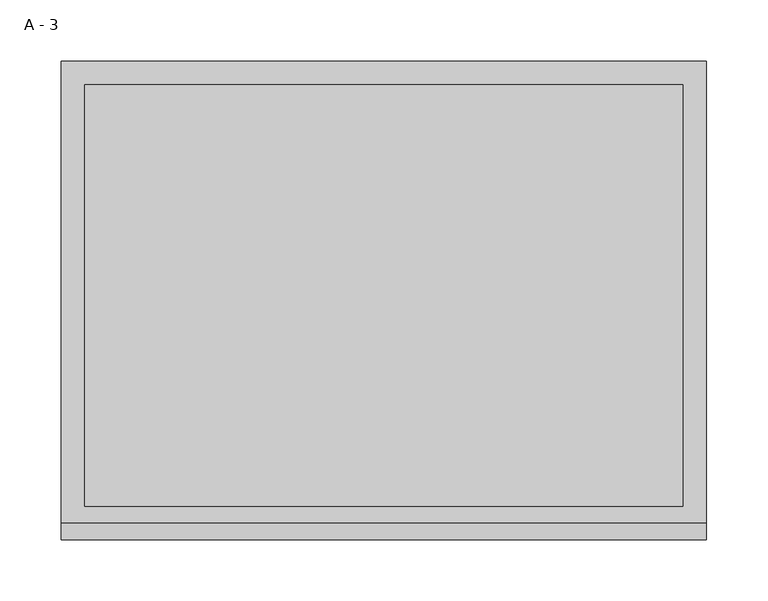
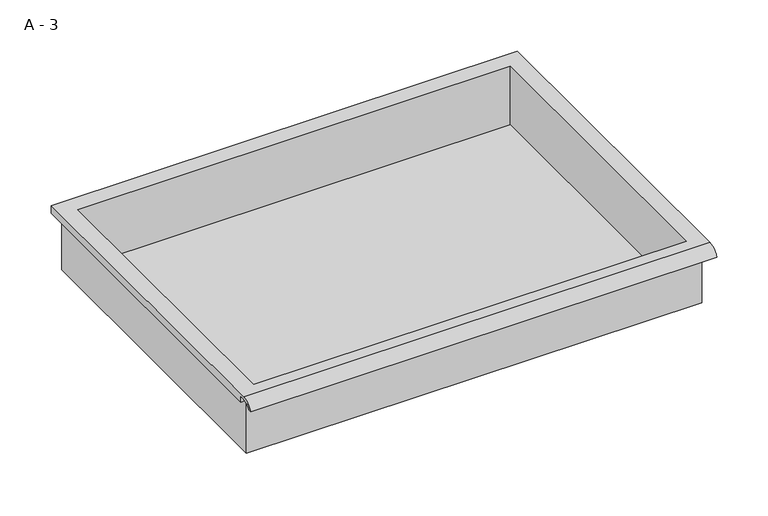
"""IFC4 building model written with IfcOpenShell, lengths in millimetres: furniture geometry, HermanMiller_CoStruc_CO207_Drawer : A - 3."""

from ifc_helpers import new_model, si_unit, frame, origin, place, context, project, spatial, polyline, circle_curve, source, transform, mapped, element, save
from ifc_brep_helpers import plane_surface, cylinder_surface, revolved_surface, advanced_brep


def a_3_be31ec70(model_context):
    return source(origin(), model_context, "Body", "AdvancedBrep", [
        advanced_brep(
        [(-257.1076517, -176.2125, 713.58252), (257.2423483, -176.2125, 713.58252), (257.2423483, -176.2125, 777.08252), (263.5923483, -176.2125, 777.08252), (263.5923483, -176.2125, 783.3896541), (-263.4576517, -176.2125, 783.3896541), (-263.4576517, -176.2125, 777.08252), (-257.1076517, -176.2125, 777.08252), (257.2423483, 185.7375, 713.58252), (-257.1076517, 185.7375, 713.58252), (-257.1076517, 185.7375, 777.08252), (257.2423483, 185.7375, 777.08252), (263.5923483, -181.6070544, 786.60752), (263.5923483, 195.2625, 786.60752), (-263.4576517, 195.2625, 786.60752), (-263.4576517, -181.6070544, 786.60752), (244.5423483, -168.275, 786.60752), (-244.4076517, -168.275, 786.60752), (-244.4076517, 176.2125, 786.60752), (244.5423483, 176.2125, 786.60752), (263.5923483, -195.2625, 777.08252), (263.5923483, -191.8280601, 777.08252), (263.5923483, -180.4714815, 783.3896541), (263.5923483, 195.2625, 777.08252), (-263.4576517, 195.2625, 777.08252), (-263.4576517, -180.4714815, 783.3896541), (-263.4576517, -191.8280601, 777.08252), (-263.4576517, -195.2625, 777.08252), (-244.4076517, -168.275, 716.6086919), (244.5423483, -168.275, 716.6086919), (244.5423483, 176.2125, 716.6086919), (-244.4076517, 176.2125, 716.6086919)],
        [
            (0, 1),
            (1, 2),
            (2, 3),
            (3, 4),
            (4, 5),
            (5, 6),
            (6, 7),
            (7, 0),
            (8, 9),
            (9, 10),
            (10, 11),
            (11, 8),
            (0, 9),
            (8, 1),
            (11, 2),
            (12, 13),
            (13, 14),
            (14, 15),
            (15, 12),
            (16, 17),
            (17, 18),
            (18, 19),
            (19, 16),
            (7, 10),
            (12, 20, circle_curve(frame((263.5923483, -181.6070544, 772.0565059), z_axis=(1.0, 0.0, 0.0), x_axis=(0.0, 1.0, 0.0)), 14.5510141)),
            (20, 21),
            (21, 22, circle_curve(frame((263.5923483, -181.6070544, 772.0565059), z_axis=(-1.0, 0.0, 0.0), x_axis=(0.0, 1.0, 0.0)), 11.3898979)),
            (22, 4),
            (3, 23),
            (23, 13),
            (14, 24),
            (24, 6),
            (5, 25),
            (25, 26, circle_curve(frame((-263.4576517, -181.6070544, 772.0565059), z_axis=(1.0, 0.0, 0.0), x_axis=(0.0, 1.0, 0.0)), 11.3898979)),
            (26, 27),
            (27, 15, circle_curve(frame((-263.4576517, -181.6070544, 772.0565059), z_axis=(-1.0, 0.0, 0.0), x_axis=(0.0, 1.0, 0.0)), 14.5510141)),
            (27, 20),
            (26, 21),
            (25, 22),
            (24, 23),
            (28, 29),
            (29, 30),
            (30, 31),
            (31, 28),
            (28, 17),
            (16, 29),
            (19, 30),
            (18, 31),
        ],
        [
            plane_surface(frame((257.2423483, -176.2125, 713.58252), z_axis=(0.0, -1.0, 0.0), x_axis=(1.0, 0.0, 0.0))),
            plane_surface(frame((257.2423483, 185.7375, 713.58252), z_axis=(0.0, 1.0, 0.0), x_axis=(-1.0, 0.0, 0.0))),
            plane_surface(frame((-257.1076517, -176.2125, 713.58252), z_axis=(0.0, 0.0, -1.0), x_axis=(0.0, 1.0, 0.0))),
            plane_surface(frame((257.2423483, -176.2125, 713.58252), z_axis=(1.0, 0.0, 0.0), x_axis=(0.0, 1.0, 0.0))),
            plane_surface(frame((257.2423483, -176.2125, 786.60752), z_axis=(0.0, 0.0, 1.0), x_axis=(0.0, 1.0, 0.0))),
            plane_surface(frame((-257.1076517, -176.2125, 786.60752), z_axis=(-1.0, 0.0, 0.0), x_axis=(0.0, 1.0, 0.0))),
            plane_surface(frame((263.5923483, 195.2625, 786.60752), z_axis=(1.0, 0.0, 0.0), x_axis=(0.0, -1.0, 0.0))),
            plane_surface(frame((-263.4576517, 195.2625, 786.60752), z_axis=(-1.0, 0.0, 0.0), x_axis=(0.0, 1.0, 0.0))),
            cylinder_surface(frame((-263.4576517, -181.6070544, 772.0565059), z_axis=(1.0, 0.0, 0.0), x_axis=(0.0, 1.0, 0.0)), 14.5510141),
            plane_surface(frame((263.5923483, -195.2625, 777.08252), z_axis=(0.0, -7.212409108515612e-12, -1.0), x_axis=(-1.0, 0.0, 0.0))),
            revolved_surface(polyline([(-263.4576517, -170.21715650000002, 772.0565059), (263.59234829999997, -170.21715650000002, 772.0565059)]), (-263.4576517, -181.6070544, 772.0565059), (-1.0, 0.0, 0.0)),
            plane_surface(frame((263.5923483, -180.4714815, 783.3896541), z_axis=(0.0, -1.7924974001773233e-11, -1.0), x_axis=(-1.0, 0.0, 0.0))),
            plane_surface(frame((263.5923483, -176.2125, 777.08252), z_axis=(0.0, 0.0, -1.0), x_axis=(-1.0, 0.0, 0.0))),
            plane_surface(frame((263.5923483, 195.2625, 777.08252), z_axis=(0.0, 1.0, 0.0), x_axis=(-1.0, 0.0, 0.0))),
            plane_surface(frame((244.5423483, -168.275, 716.6086919), z_axis=(0.0, 0.0, 1.0), x_axis=(-1.0, 0.0, 0.0))),
            plane_surface(frame((-244.4076517, -168.275, 786.60752), z_axis=(0.0, 1.0, 0.0), x_axis=(0.0, 0.0, -1.0))),
            plane_surface(frame((244.5423483, -168.275, 786.60752), z_axis=(-1.0, 0.0, 0.0), x_axis=(0.0, 0.0, -1.0))),
            plane_surface(frame((244.5423483, 176.2125, 786.60752), z_axis=(0.0, -1.0, 0.0), x_axis=(0.0, 0.0, -1.0))),
            plane_surface(frame((-244.4076517, 176.2125, 786.60752), z_axis=(1.0, 0.0, 0.0), x_axis=(0.0, 0.0, -1.0))),
        ],
        [
            (0, [[1, 2, 3, 4, 5, 6, 7, 8]]),
            (1, [[9, 10, 11, 12]]),
            (2, [[-1, 13, -9, 14]]),
            (3, [[-14, -12, 15, -2]]),
            (4, [[16, 17, 18, 19], [20, 21, 22, 23]]),
            (5, [[-13, -8, 24, -10]]),
            (6, [[-16, 25, 26, 27, 28, -4, 29, 30]]),
            (7, [[31, 32, -6, 33, 34, 35, 36, -18]]),
            (8, [[-25, -19, -36, 37]]),
            (9, [[-26, -37, -35, 38]]),
            (10, [[-27, -38, -34, 39]]),
            (11, [[-28, -39, -33, -5]]),
            (12, [[-29, -3, -15, -11, -24, -7, -32, 40]]),
            (13, [[-30, -40, -31, -17]]),
            (14, [[41, 42, 43, 44]]),
            (15, [[-41, 45, -20, 46]]),
            (16, [[-42, -46, -23, 47]]),
            (17, [[-43, -47, -22, 48]]),
            (18, [[-44, -48, -21, -45]]),
        ],
    ),
    ])


if __name__ == "__main__":
    model = new_model("IFC4")
    model_context = context("Model", 3, world=origin())
    ifc_project = project(units=[si_unit("LENGTHUNIT", "METRE", prefix="MILLI")], contexts=[model_context])
    site = spatial("IfcSite", under=ifc_project)
    building = spatial("IfcBuilding", under=site)
    placement = place(None, origin())
    a_3_shape = a_3_be31ec70(model_context)
    element("IfcFurniture", 1, ObjectType="HermanMiller_CoStruc_CO207_Drawer : A - 3", at=placement, inside=building, context=model_context, shape_type="MappedRepresentation", body=[
        mapped(a_3_shape, transform((0.0, 0.0, 0.0), x_axis=(1.0, 0.0, 0.0), y_axis=(0.0, 1.0, 0.0), z_axis=(0.0, 0.0, 1.0))),
    ])
    save(model, "model.ifc")
